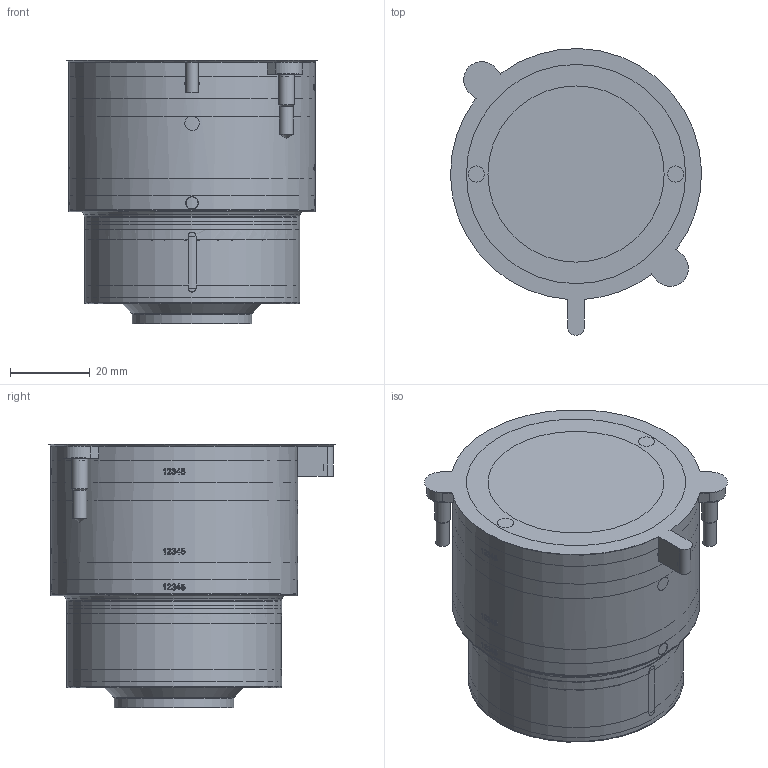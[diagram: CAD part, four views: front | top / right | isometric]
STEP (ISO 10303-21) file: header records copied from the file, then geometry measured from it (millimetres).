
FILE_DESCRIPTION(/* description */ (''),/* implementation_level */ '2;1');
FILE_NAME(/* name */ '83-006-027_CoolingInsertAssemblyTT-IT-OTX27-66.stp',/* time_stamp */ '2021-09-22T14:59:24+12:00',/* author */ (''),/* organization */ (''),/* preprocessor_version */ 'ST-DEVELOPER v16.7',/* originating_system */ 'SIEMENS PLM Software NX 12.0',/* authorisation */ '');
FILE_SCHEMA (('AP203_CONFIGURATION_CONTROLLED_3D_DESIGN_OF_MECHANICAL_PARTS_AND_ASSEMBLIES_MIM_LF { 1 0 10303 403 2 1 2}'));
Length unit declared in the file: millimetre
Products named in the file (1): Matt09681A55sypw
Bounding box: 62.98 x 71.99 x 66 mm (x, y, z)
Volume: 249926.8 mm3; surface area: 54738.3 mm2
Topology: 14 solids, 14 shells, 928 faces, 2327 edges, 1528 vertices
Faces by surface type: plane 411, cylinder 328, extrusion 81, cone 56, torus 38, revolution 8, bspline 6
Full cylindrical faces by diameter (mm): 0.421 x3, 2 x1, 3 x5, 3.02 x5, 3.05 x6, 3.5 x2, 4 x2, 7.6 x2, 23.01 x1, 29.795 x1, 29.995 x1, 30.01 x1, 38 x1, 40.2 x2, 43 x1, 43.2 x2, 45.8 x2, 50.7 x2, 53.8 x1, 53.94 x2, 54 x2, 56 x3, 61.8 x3, 62 x1
Entity records: 38608 total; most frequent: CARTESIAN_POINT 17321, ORIENTED_EDGE 4216, DIRECTION 3864, EDGE_CURVE 2108, VERTEX_POINT 1474, AXIS2_PLACEMENT_3D 1407, EDGE_LOOP 1193, VECTOR 1042
